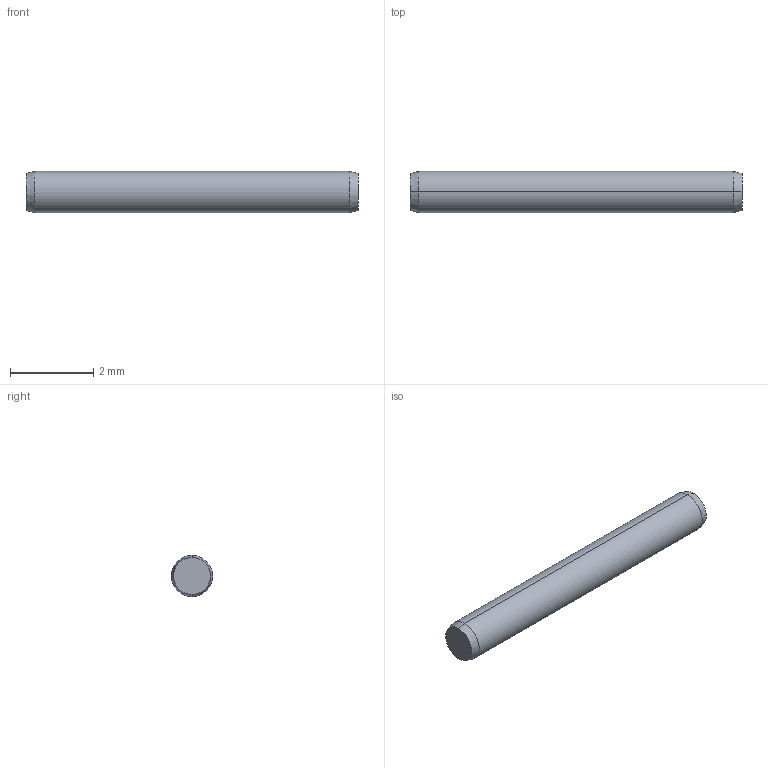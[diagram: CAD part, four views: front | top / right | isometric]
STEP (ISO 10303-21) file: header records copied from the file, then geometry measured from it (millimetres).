
FILE_DESCRIPTION (( 'STEP AP203' ), '1' );
FILE_NAME ('P1206.010-008.step', '2017-06-14T07:50:54', ( 'User' ), ( '' ), 'SwSTEP 2.0', 'SolidWorks 2009', '' );
FILE_SCHEMA (( 'CONFIG_CONTROL_DESIGN' ));
Length unit declared in the file: millimetre
Products named in the file (1): P1206.010-008
Bounding box: 8 x 1 x 1 mm (x, y, z)
Volume: 6.3 mm3; surface area: 26.4 mm2
Topology: 1 solids, 1 shells, 8 faces, 14 edges, 8 vertices
Faces by surface type: cone 4, cylinder 2, plane 2
Entity records: 271 total; most frequent: DIRECTION 40, CARTESIAN_POINT 31, ORIENTED_EDGE 28, AXIS2_PLACEMENT_3D 17, EDGE_CURVE 14, VERTEX_POINT 8, ADVANCED_FACE 8, EDGE_LOOP 8
